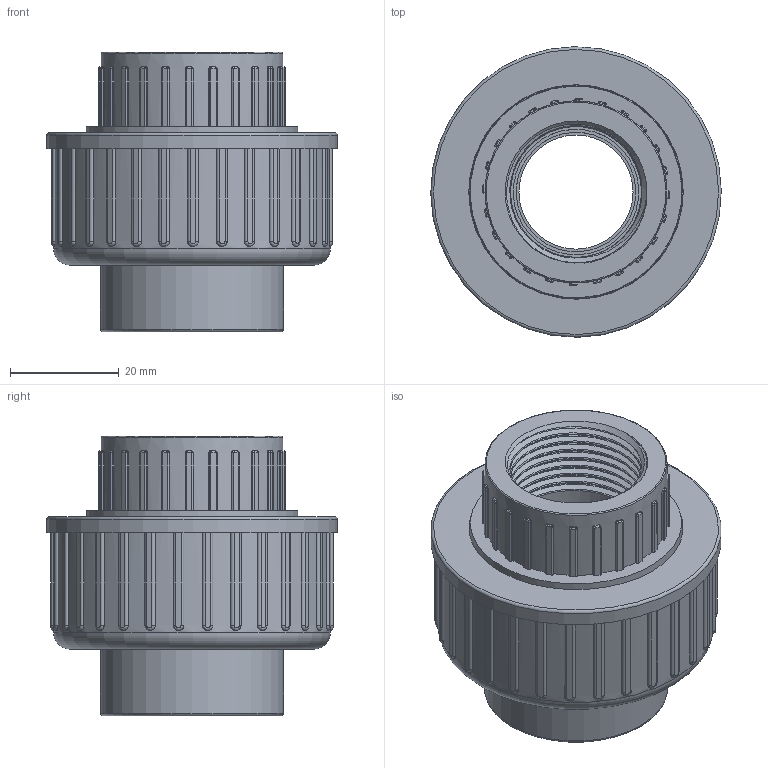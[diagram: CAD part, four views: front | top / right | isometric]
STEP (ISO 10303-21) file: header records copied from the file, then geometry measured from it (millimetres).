
FILE_DESCRIPTION(/* description */ (''),/* implementation_level */ '2;1');
FILE_NAME(/* name */ 'C:\Users\POLYPIPE\Desktop\DATASET INVENTOR\LIBRERIA EFFAST\3D_RACCORDI\RGR\3D_RGRBOG\3D_RGRBOG025C.stp',/* time_stamp */ '2018-01-22T14:32:15+01:00',/* author */ ('POLYPIPE'),/* organization */ (''),/* preprocessor_version */ 'ST-DEVELOPER v16.1',/* originating_system */ 'Autodesk Inventor 2016',/* authorisation */ '');
FILE_SCHEMA (('CONFIG_CONTROL_DESIGN'));
Length unit declared in the file: centimetre
Products named in the file (1): 3D_RGRBOG
Bounding box: 53.5 x 53.5 x 51.5 mm (x, y, z)
Volume: 50298.8 mm3; surface area: 19660.1 mm2
Topology: 1 solids, 1 shells, 432 faces, 1158 edges, 737 vertices
Faces by surface type: cylinder 198, plane 142, bspline 87, torus 4, cone 1
Full cylindrical faces by diameter (mm): 21 x1, 22 x1, 23.117 x1, 24.117 x1, 25 x1, 33.5 x1, 33.7 x1, 36.4 x1, 38.952 x2, 39 x1, 39.5 x5, 51 x1, 53.5 x1
Entity records: 19971 total; most frequent: CARTESIAN_POINT 9024, ORIENTED_EDGE 2244, DIRECTION 2211, EDGE_CURVE 1122, AXIS2_PLACEMENT_3D 845, VERTEX_POINT 723, LINE 521, VECTOR 521
